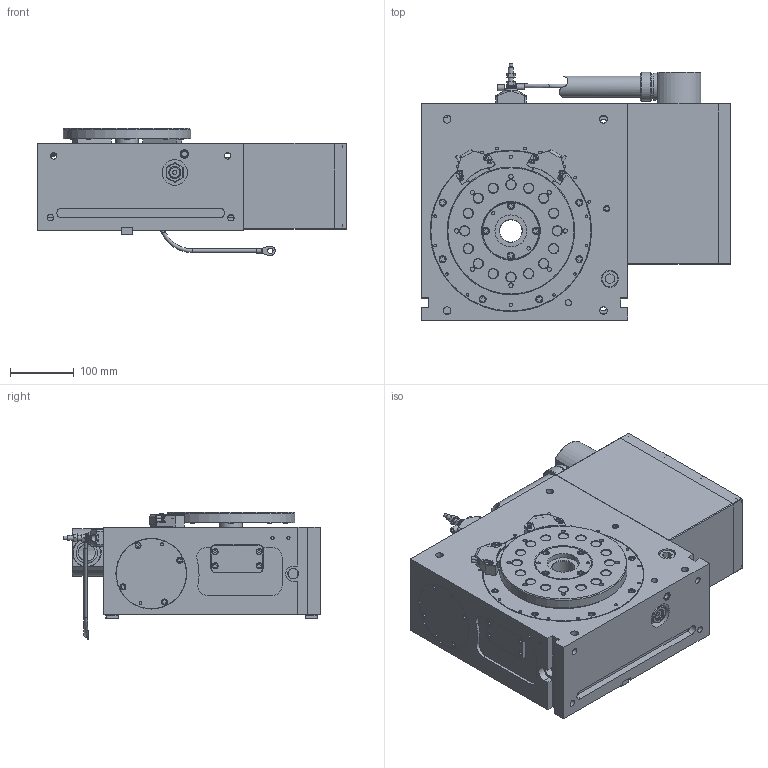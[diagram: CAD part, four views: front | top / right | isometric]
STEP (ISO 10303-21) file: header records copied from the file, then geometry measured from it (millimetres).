
FILE_DESCRIPTION (( 'STEP AP203' ), '1' );
FILE_NAME ('15091597.STEP', '2021-10-04T05:19:47', ( '' ), ( '' ), 'SwSTEP 2.0', 'SolidWorks 2021', '' );
FILE_SCHEMA (( 'CONFIG_CONTROL_DESIGN' ));
Length unit declared in the file: millimetre
Products named in the file (1): 15091597
Bounding box: 484 x 402.3 x 199.3 mm (x, y, z)
Surface area: 772962.1 mm2 (no closed solid volume)
Topology: 0 solids, 161 shells, 1082 faces, 4638 edges, 3735 vertices
Faces by surface type: plane 747, cylinder 221, cone 91, bspline 14, torus 5, sphere 4
Full cylindrical faces by diameter (mm): 1.6 x2, 2.5 x3, 3.7 x2, 4 x8, 4.2 x13, 4.5 x5, 5 x10, 5.8 x4, 6 x3, 6.8 x8, 7.1 x1, 7.22 x2, 7.6 x4, 8 x10, 8.4 x1, 9 x2, 9.5 x28, 10 x4, 10.2 x12, 11 x14, 12 x4, 13 x2, 14 x3, 15.5 x2, 16 x1, 18.5 x2, 26.4 x1, 33.4 x1, 35 x1, 39.376 x1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
Entity records: 52952 total; most frequent: CARTESIAN_POINT 17894, DIRECTION 6333, ORIENTED_EDGE 6028, EDGE_CURVE 4346, VERTEX_POINT 3699, LINE 2693, VECTOR 2693, AXIS2_PLACEMENT_3D 1820
